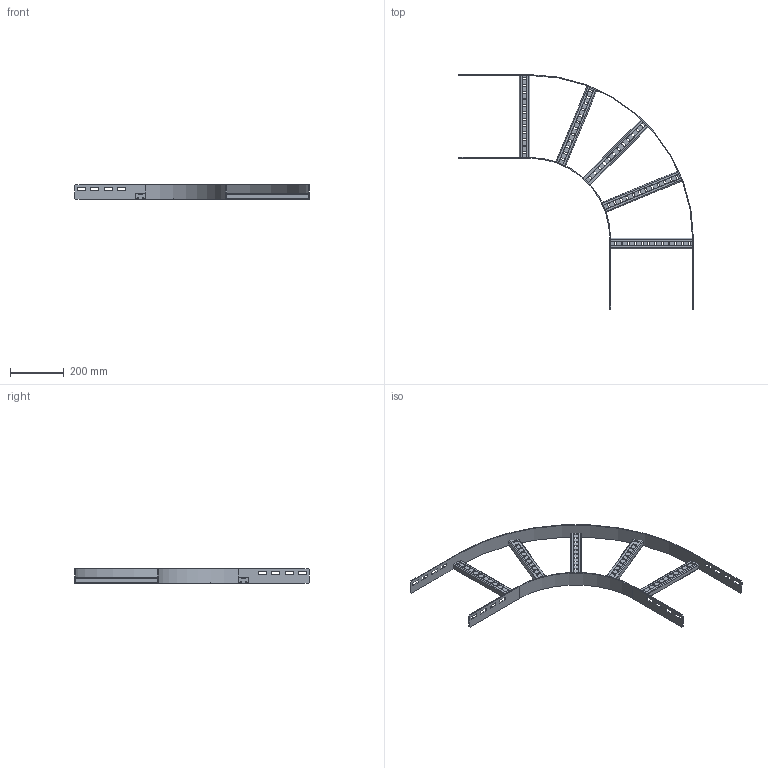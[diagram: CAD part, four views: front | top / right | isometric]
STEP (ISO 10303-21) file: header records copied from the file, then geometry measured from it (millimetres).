
FILE_DESCRIPTION(('Creo Elements/Direct Modeling STEP Export'),'2;1');
FILE_NAME('//pserver/office/EK/ME10-3D/3D-output/WPHB06-30-90-30-HDG.stp','2019-08-14T 9:45:40',(''),(''),'PTC Creo Elements/Direct Modeling STEP processor for AP214 (Solid Model)','PTC Creo Elements/Direct Modeling 19.0C 15-Aug-2015 (C) Parametric Technology GmbH','');
FILE_SCHEMA(('AUTOMOTIVE_DESIGN { 1 0 10303 214 1 1 1 1 }'));
Length unit declared in the file: millimetre
Products named in the file (4): WPHBI_06-300; WPHBA_60-30-90-300; WPHBS30.1.3; WPHB06-30-90-30-HDG
Assembly tree (7 placements, depth 2):
  WPHB06-30-90-30-HDG
    WPHBS30.1.3  x5
    WPHBA_60-30-90-300
    WPHBI_06-300
Bounding box: 873 x 873 x 55 mm (x, y, z)
Volume: 615220.3 mm3; surface area: 587784.6 mm2
Topology: 7 solids, 7 shells, 532 faces, 1554 edges, 1036 vertices
Faces by surface type: plane 318, cylinder 214
Entity records: 6142 total; most frequent: CARTESIAN_POINT 1057, ORIENTED_EDGE 1044, DIRECTION 988, EDGE_CURVE 522, VECTOR 430, LINE 430, VERTEX_POINT 348, AXIS2_PLACEMENT_3D 279
